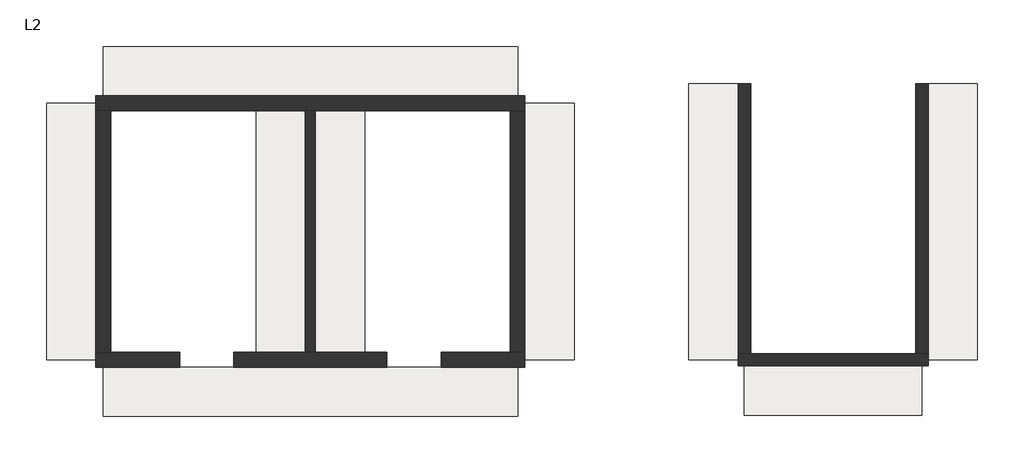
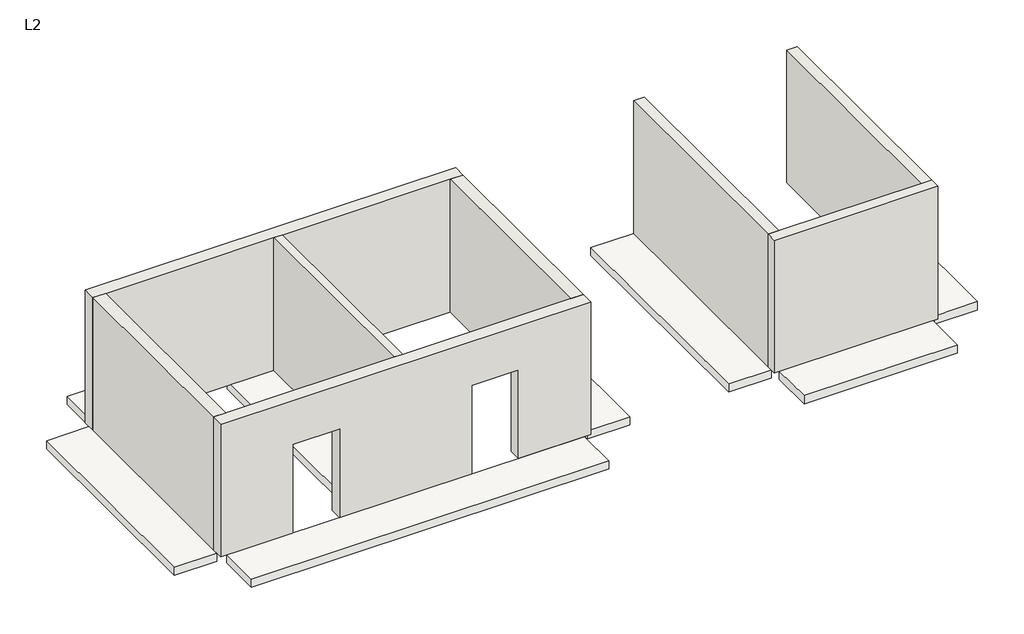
# One storey: 9 slabs, 8 walls.
"""IFC4 building model written with IfcOpenShell, lengths in millimetres."""

from ifc_helpers import new_model, si_unit, frame, origin, place, context, project, spatial, polyline, outline, extrude, faceted_brep, element, save

model = new_model("IFC4")

# Units and contexts
model_context = context("Model", 3, world=origin())
ifc_project = project(units=[si_unit("LENGTHUNIT", "METRE", prefix="MILLI")], contexts=[model_context])

# Site, building, storey
site = spatial("IfcSite", under=ifc_project)
building = spatial("IfcBuilding", under=site)
storey = spatial("IfcBuildingStorey", under=building, Name="L2", Elevation=4500.0)

# Slabs
placement = place(None, origin())
element("IfcSlab", 1, ObjectType="BS-Sàn 200", at=placement, inside=storey, context=model_context, shape_type="SweptSolid", body=[
    extrude(outline(polyline([(0.0, 6350.0), (8400.0, 6350.0), (8400.0, 5350.0), (0.0, 5350.0), (0.0, 6350.0)])), frame((0.0, 0.0, 4300.0), z_axis=(0.0, 0.0, 1.0), x_axis=(1.0, 0.0, 0.0)), (0.0, 0.0, 1.0), 200.0),
])
element("IfcSlab", 2, ObjectType="BS-Sàn 200", at=placement, inside=storey, context=model_context, shape_type="SweptSolid", body=[
    extrude(outline(polyline([(16725.0, 5600.0), (17725.0, 5600.0), (17725.0, 0.0), (16725.0, 0.0), (16725.0, 5600.0)])), frame((0.0, 0.0, 4300.0), z_axis=(0.0, 0.0, 1.0), x_axis=(1.0, 0.0, 0.0)), (0.0, 0.0, 1.0), 200.0),
])
element("IfcSlab", 3, ObjectType="BS-Sàn 200", at=placement, inside=storey, context=model_context, shape_type="SweptSolid", body=[
    extrude(outline(polyline([(11875.0, 5600.0), (12875.0, 5600.0), (12875.0, 0.0), (11875.0, 0.0), (11875.0, 5600.0)])), frame((0.0, 0.0, 4300.0), z_axis=(0.0, 0.0, 1.0), x_axis=(1.0, 0.0, 0.0)), (0.0, 0.0, 1.0), 200.0),
])
element("IfcSlab", 4, ObjectType="BS-Sàn 200", at=placement, inside=storey, context=model_context, shape_type="SweptSolid", body=[
    extrude(outline(polyline([(4300.0, 5200.0), (5300.0, 5200.0), (5300.0, 0.0), (4300.0, 0.0), (4300.0, 5200.0)])), frame((0.0, 0.0, 4300.0), z_axis=(0.0, 0.0, 1.0), x_axis=(1.0, 0.0, 0.0)), (0.0, 0.0, 1.0), 200.0),
])
element("IfcSlab", 5, ObjectType="BS-Sàn 200", at=placement, inside=storey, context=model_context, shape_type="SweptSolid", body=[
    extrude(outline(polyline([(3100.0, 5200.0), (4100.0, 5200.0), (4100.0, 0.0), (3100.0, 0.0), (3100.0, 5200.0)])), frame((0.0, 0.0, 4300.0), z_axis=(0.0, 0.0, 1.0), x_axis=(1.0, 0.0, 0.0)), (0.0, 0.0, 1.0), 200.0),
])
element("IfcSlab", 6, ObjectType="BS-Sàn 200", at=placement, inside=storey, context=model_context, shape_type="SweptSolid", body=[
    extrude(outline(polyline([(8550.0, 5200.0), (9550.0, 5200.0), (9550.0, 0.0), (8550.0, 0.0), (8550.0, 5200.0)])), frame((0.0, 0.0, 4300.0), z_axis=(0.0, 0.0, 1.0), x_axis=(1.0, 0.0, 0.0)), (0.0, 0.0, 1.0), 200.0),
])
element("IfcSlab", 7, ObjectType="BS-Sàn 200", at=placement, inside=storey, context=model_context, shape_type="SweptSolid", body=[
    extrude(outline(polyline([(-1150.0, 5200.0), (-150.0, 5200.0), (-150.0, 0.0), (-1150.0, 0.0), (-1150.0, 5200.0)])), frame((0.0, 0.0, 4300.0), z_axis=(0.0, 0.0, 1.0), x_axis=(1.0, 0.0, 0.0)), (0.0, 0.0, 1.0), 200.0),
])
element("IfcSlab", 8, ObjectType="BS-Sàn 200", at=placement, inside=storey, context=model_context, shape_type="SweptSolid", body=[
    extrude(outline(polyline([(13000.0, -125.0), (16600.0, -125.0), (16600.0, -1125.0), (13000.0, -1125.0), (13000.0, -125.0)])), frame((0.0, 0.0, 4300.0), z_axis=(0.0, 0.0, 1.0), x_axis=(1.0, 0.0, 0.0)), (0.0, 0.0, 1.0), 200.0),
])
element("IfcSlab", 9, ObjectType="BS-Sàn 200", at=placement, inside=storey, context=model_context, shape_type="SweptSolid", body=[
    extrude(outline(polyline([(0.0, -150.0), (8400.0, -150.0), (8400.0, -1150.0), (0.0, -1150.0), (0.0, -150.0)])), frame((0.0, 0.0, 4300.0), z_axis=(0.0, 0.0, 1.0), x_axis=(1.0, 0.0, 0.0)), (0.0, 0.0, 1.0), 200.0),
])

# Walls
element("IfcWall", 10, ObjectType="BS-Vách 300", at=placement, inside=storey, context=model_context, shape_type="Brep", body=[
    faceted_brep([(-150.0, 5050.0, 4500.0), (150.0, 5050.0, 4500.0), (4100.0, 5050.0, 4500.0), (4300.0, 5050.0, 4500.0), (8250.0, 5050.0, 4500.0), (8550.0, 5050.0, 4500.0), (8550.0, 5050.0, 7800.0), (8250.0, 5050.0, 7800.0), (4300.0, 5050.0, 7800.0), (4100.0, 5050.0, 7800.0), (150.0, 5050.0, 7800.0), (-150.0, 5050.0, 7800.0), (-150.0, 5350.0, 4500.0), (-150.0, 5350.0, 7800.0), (8550.0, 5350.0, 7800.0), (8550.0, 5350.0, 4500.0)], [[[0, 1, 2, 3, 4, 5, 6, 7, 8, 9, 10, 11]], [[12, 13, 14, 15]], [[5, 4, 3, 2, 1, 0, 12, 15]], [[11, 10, 9, 8, 7, 6, 14, 13]], [[6, 5, 15, 14]], [[0, 11, 13, 12]]]),
])
element("IfcWall", 11, ObjectType="BS-Vách 300", at=placement, inside=storey, context=model_context, shape_type="Brep", body=[
    faceted_brep([(8550.0, -150.0, 4500.0), (8550.0, -150.0, 7800.0), (-150.0, -150.0, 7800.0), (-150.0, -150.0, 4500.0), (1550.0, -150.0, 4500.0), (1550.0, -150.0, 6700.0), (2650.0, -150.0, 6700.0), (2650.0, -150.0, 4500.0), (5750.0, -150.0, 4500.0), (5750.0, -150.0, 6700.0), (6850.0, -150.0, 6700.0), (6850.0, -150.0, 4500.0), (8550.0, 150.0, 7800.0), (8550.0, 150.0, 4500.0), (8250.0, 150.0, 4500.0), (6850.0, 150.0, 4500.0), (6850.0, 150.0, 6700.0), (5750.0, 150.0, 6700.0), (5750.0, 150.0, 4500.0), (4300.0, 150.0, 4500.0), (4100.0, 150.0, 4500.0), (2650.0, 150.0, 4500.0), (2650.0, 150.0, 6700.0), (1550.0, 150.0, 6700.0), (1550.0, 150.0, 4500.0), (150.0, 150.0, 4500.0), (-150.0, 150.0, 4500.0), (-150.0, 150.0, 7800.0), (150.0, 150.0, 7800.0), (4100.0, 150.0, 7800.0), (4300.0, 150.0, 7800.0), (8250.0, 150.0, 7800.0)], [[[0, 1, 2, 3, 4, 5, 6, 7, 8, 9, 10, 11]], [[12, 13, 14, 15, 16, 17, 18, 19, 20, 21, 22, 23, 24, 25, 26, 27, 28, 29, 30, 31]], [[7, 21, 20, 19, 18, 8]], [[13, 0, 11, 15, 14]], [[3, 26, 25, 24, 4]], [[2, 1, 12, 31, 30, 29, 28, 27]], [[5, 23, 22, 6]], [[23, 5, 4, 24]], [[6, 22, 21, 7]], [[9, 17, 16, 10]], [[17, 9, 8, 18]], [[10, 16, 15, 11]], [[1, 0, 13, 12]], [[3, 2, 27, 26]]]),
])
element("IfcWall", 12, ObjectType="BS-Vách 300", at=placement, inside=storey, context=model_context, shape_type="SweptSolid", body=[
    extrude(outline(polyline([(150.0, 5050.0), (150.0, 150.0), (-150.0, 150.0), (-150.0, 5050.0), (150.0, 5050.0)])), frame((0.0, 0.0, 4500.0), z_axis=(0.0, 0.0, 1.0), x_axis=(1.0, 0.0, 0.0)), (0.0, 0.0, 1.0), 3300.0),
])
element("IfcWall", 13, ObjectType="BS-Vách 300", at=placement, inside=storey, context=model_context, shape_type="SweptSolid", body=[
    extrude(outline(polyline([(8550.0, 5050.0), (8550.0, 150.0), (8250.0, 150.0), (8250.0, 5050.0), (8550.0, 5050.0)])), frame((0.0, 0.0, 4500.0), z_axis=(0.0, 0.0, 1.0), x_axis=(1.0, 0.0, 0.0)), (0.0, 0.0, 1.0), 3300.0),
])
element("IfcWall", 14, ObjectType="BS-Vách 200", at=placement, inside=storey, context=model_context, shape_type="SweptSolid", body=[
    extrude(outline(polyline([(4300.0, 5050.0), (4300.0, 150.0), (4100.0, 150.0), (4100.0, 5050.0), (4300.0, 5050.0)])), frame((0.0, 0.0, 4500.0), z_axis=(0.0, 0.0, 1.0), x_axis=(1.0, 0.0, 0.0)), (0.0, 0.0, 1.0), 3300.0),
])
element("IfcWall", 15, ObjectType="BS-Vách 250", at=placement, inside=storey, context=model_context, shape_type="Brep", body=[
    faceted_brep([(12875.0, -125.0, 4500.0), (16725.0, -125.0, 4500.0), (16725.0, -125.0, 7800.0), (12875.0, -125.0, 7800.0), (12875.0, 125.0, 4500.0), (12875.0, 125.0, 7800.0), (13125.0, 125.0, 7800.0), (16475.0, 125.0, 7800.0), (16725.0, 125.0, 7800.0), (16725.0, 125.0, 4500.0), (16475.0, 125.0, 4500.0), (13125.0, 125.0, 4500.0)], [[[0, 1, 2, 3]], [[4, 5, 6, 7, 8, 9, 10, 11]], [[1, 0, 4, 11, 10, 9]], [[3, 2, 8, 7, 6, 5]], [[2, 1, 9, 8]], [[0, 3, 5, 4]]]),
])
element("IfcWall", 16, ObjectType="BS-Vách 250", at=placement, inside=storey, context=model_context, shape_type="SweptSolid", body=[
    extrude(outline(polyline([(13125.0, 5600.0), (13125.0, 125.0), (12875.0, 125.0), (12875.0, 5600.0), (13125.0, 5600.0)])), frame((0.0, 0.0, 4500.0), z_axis=(0.0, 0.0, 1.0), x_axis=(1.0, 0.0, 0.0)), (0.0, 0.0, 1.0), 3300.0),
])
element("IfcWall", 17, ObjectType="BS-Vách 250", at=placement, inside=storey, context=model_context, shape_type="SweptSolid", body=[
    extrude(outline(polyline([(16725.0, 5600.0), (16725.0, 125.0), (16475.0, 125.0), (16475.0, 5600.0), (16725.0, 5600.0)])), frame((0.0, 0.0, 4500.0), z_axis=(0.0, 0.0, 1.0), x_axis=(1.0, 0.0, 0.0)), (0.0, 0.0, 1.0), 3300.0),
])

save(model, "model.ifc")
